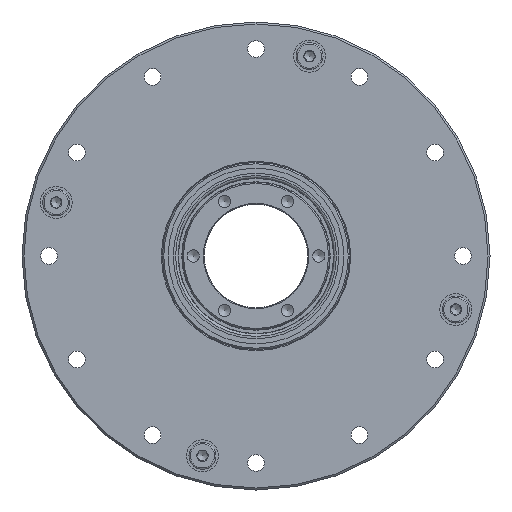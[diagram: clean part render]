
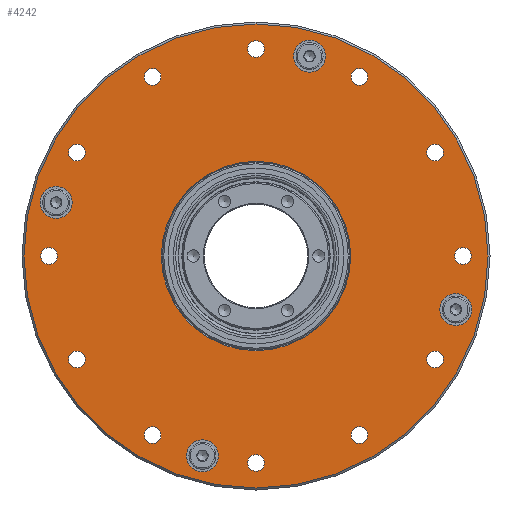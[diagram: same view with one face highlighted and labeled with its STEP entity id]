
A CAD part, left-side view. The second image highlights one B-rep face of the part: STEP entity #4242.
In plain terms, the highlighted planar face has unit normal (-1, 0, 0).
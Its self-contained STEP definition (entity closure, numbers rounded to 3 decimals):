
#4242=ADVANCED_FACE('',(#6207,#6208,#6209,#6210,#6211,#6212,#6213,#6214,
#6215,#6216,#6217,#6218,#6219,#6220,#6221,#6222,#6223,#6224),#4781,.F.);
#4781=PLANE('',#19052);
#6207=FACE_BOUND('',#8252,.T.);
#6208=FACE_BOUND('',#8253,.T.);
#6209=FACE_BOUND('',#8254,.T.);
#6210=FACE_BOUND('',#8255,.T.);
#6211=FACE_BOUND('',#8256,.T.);
#6212=FACE_BOUND('',#8257,.T.);
#6213=FACE_BOUND('',#8258,.T.);
#6214=FACE_BOUND('',#8259,.T.);
#6215=FACE_BOUND('',#8260,.T.);
#6216=FACE_BOUND('',#8261,.T.);
#6217=FACE_BOUND('',#8262,.T.);
#6218=FACE_BOUND('',#8263,.T.);
#6219=FACE_BOUND('',#8264,.T.);
#6220=FACE_BOUND('',#8265,.T.);
#6221=FACE_BOUND('',#8266,.T.);
#6222=FACE_BOUND('',#8267,.T.);
#6223=FACE_BOUND('',#8268,.T.);
#6224=FACE_BOUND('',#8269,.T.);
#8252=EDGE_LOOP('',(#11566));
#8253=EDGE_LOOP('',(#11567));
#8254=EDGE_LOOP('',(#11568));
#8255=EDGE_LOOP('',(#11569));
#8256=EDGE_LOOP('',(#11570));
#8257=EDGE_LOOP('',(#11571));
#8258=EDGE_LOOP('',(#11572));
#8259=EDGE_LOOP('',(#11573));
#8260=EDGE_LOOP('',(#11574));
#8261=EDGE_LOOP('',(#11575));
#8262=EDGE_LOOP('',(#11576));
#8263=EDGE_LOOP('',(#11577));
#8264=EDGE_LOOP('',(#11578));
#8265=EDGE_LOOP('',(#11579));
#8266=EDGE_LOOP('',(#11580));
#8267=EDGE_LOOP('',(#11581));
#8268=EDGE_LOOP('',(#11582));
#8269=EDGE_LOOP('',(#11583));
#11566=ORIENTED_EDGE('',*,*,#15133,.T.);
#11567=ORIENTED_EDGE('',*,*,#15134,.T.);
#11568=ORIENTED_EDGE('',*,*,#15135,.T.);
#11569=ORIENTED_EDGE('',*,*,#15136,.T.);
#11570=ORIENTED_EDGE('',*,*,#15137,.T.);
#11571=ORIENTED_EDGE('',*,*,#15138,.T.);
#11572=ORIENTED_EDGE('',*,*,#15139,.T.);
#11573=ORIENTED_EDGE('',*,*,#15140,.T.);
#11574=ORIENTED_EDGE('',*,*,#15141,.T.);
#11575=ORIENTED_EDGE('',*,*,#15142,.T.);
#11576=ORIENTED_EDGE('',*,*,#15143,.T.);
#11577=ORIENTED_EDGE('',*,*,#15144,.T.);
#11578=ORIENTED_EDGE('',*,*,#15145,.T.);
#11579=ORIENTED_EDGE('',*,*,#15146,.T.);
#11580=ORIENTED_EDGE('',*,*,#15147,.T.);
#11581=ORIENTED_EDGE('',*,*,#15148,.T.);
#11582=ORIENTED_EDGE('',*,*,#15149,.T.);
#11583=ORIENTED_EDGE('',*,*,#15150,.T.);
#13435=VERTEX_POINT('',#34991);
#13436=VERTEX_POINT('',#34993);
#13437=VERTEX_POINT('',#34995);
#13438=VERTEX_POINT('',#34997);
#13439=VERTEX_POINT('',#34999);
#13440=VERTEX_POINT('',#35001);
#13441=VERTEX_POINT('',#35003);
#13442=VERTEX_POINT('',#35005);
#13443=VERTEX_POINT('',#35007);
#13444=VERTEX_POINT('',#35009);
#13445=VERTEX_POINT('',#35011);
#13446=VERTEX_POINT('',#35013);
#13447=VERTEX_POINT('',#35015);
#13448=VERTEX_POINT('',#35017);
#13449=VERTEX_POINT('',#35019);
#13450=VERTEX_POINT('',#35021);
#13451=VERTEX_POINT('',#35023);
#13452=VERTEX_POINT('',#35025);
#15133=EDGE_CURVE('',#13435,#13435,#16910,.T.);
#15134=EDGE_CURVE('',#13436,#13436,#16911,.T.);
#15135=EDGE_CURVE('',#13437,#13437,#16912,.T.);
#15136=EDGE_CURVE('',#13438,#13438,#16913,.T.);
#15137=EDGE_CURVE('',#13439,#13439,#16914,.T.);
#15138=EDGE_CURVE('',#13440,#13440,#16915,.T.);
#15139=EDGE_CURVE('',#13441,#13441,#16916,.T.);
#15140=EDGE_CURVE('',#13442,#13442,#16917,.T.);
#15141=EDGE_CURVE('',#13443,#13443,#16918,.T.);
#15142=EDGE_CURVE('',#13444,#13444,#16919,.T.);
#15143=EDGE_CURVE('',#13445,#13445,#16920,.T.);
#15144=EDGE_CURVE('',#13446,#13446,#16921,.T.);
#15145=EDGE_CURVE('',#13447,#13447,#16922,.T.);
#15146=EDGE_CURVE('',#13448,#13448,#16923,.T.);
#15147=EDGE_CURVE('',#13449,#13449,#16924,.T.);
#15148=EDGE_CURVE('',#13450,#13450,#16925,.T.);
#15149=EDGE_CURVE('',#13451,#13451,#16926,.T.);
#15150=EDGE_CURVE('',#13452,#13452,#16927,.T.);
#16910=CIRCLE('',#19034,19.218);
#16911=CIRCLE('',#19035,3.25);
#16912=CIRCLE('',#19036,3.25);
#16913=CIRCLE('',#19037,3.25);
#16914=CIRCLE('',#19038,3.25);
#16915=CIRCLE('',#19039,1.7);
#16916=CIRCLE('',#19040,1.7);
#16917=CIRCLE('',#19041,1.7);
#16918=CIRCLE('',#19042,1.7);
#16919=CIRCLE('',#19043,1.7);
#16920=CIRCLE('',#19044,1.7);
#16921=CIRCLE('',#19045,1.7);
#16922=CIRCLE('',#19046,1.7);
#16923=CIRCLE('',#19047,1.7);
#16924=CIRCLE('',#19048,1.7);
#16925=CIRCLE('',#19049,1.7);
#16926=CIRCLE('',#19050,1.7);
#16927=CIRCLE('',#19051,47.1);
#19034=AXIS2_PLACEMENT_3D('',#34990,#23513,#23514);
#19035=AXIS2_PLACEMENT_3D('',#34992,#23515,#23516);
#19036=AXIS2_PLACEMENT_3D('',#34994,#23517,#23518);
#19037=AXIS2_PLACEMENT_3D('',#34996,#23519,#23520);
#19038=AXIS2_PLACEMENT_3D('',#34998,#23521,#23522);
#19039=AXIS2_PLACEMENT_3D('',#35000,#23523,#23524);
#19040=AXIS2_PLACEMENT_3D('',#35002,#23525,#23526);
#19041=AXIS2_PLACEMENT_3D('',#35004,#23527,#23528);
#19042=AXIS2_PLACEMENT_3D('',#35006,#23529,#23530);
#19043=AXIS2_PLACEMENT_3D('',#35008,#23531,#23532);
#19044=AXIS2_PLACEMENT_3D('',#35010,#23533,#23534);
#19045=AXIS2_PLACEMENT_3D('',#35012,#23535,#23536);
#19046=AXIS2_PLACEMENT_3D('',#35014,#23537,#23538);
#19047=AXIS2_PLACEMENT_3D('',#35016,#23539,#23540);
#19048=AXIS2_PLACEMENT_3D('',#35018,#23541,#23542);
#19049=AXIS2_PLACEMENT_3D('',#35020,#23543,#23544);
#19050=AXIS2_PLACEMENT_3D('',#35022,#23545,#23546);
#19051=AXIS2_PLACEMENT_3D('',#35024,#23547,#23548);
#19052=AXIS2_PLACEMENT_3D('',#35026,#23549,#23550);
#23513=DIRECTION('',(1.,0.,0.));
#23514=DIRECTION('',(0.,0.,-1.));
#23515=DIRECTION('',(1.,0.,0.));
#23516=DIRECTION('',(0.,1.,0.));
#23517=DIRECTION('',(1.,0.,0.));
#23518=DIRECTION('',(0.,0.,1.));
#23519=DIRECTION('',(1.,0.,0.));
#23520=DIRECTION('',(0.,-1.,0.));
#23521=DIRECTION('',(1.,0.,0.));
#23522=DIRECTION('',(0.,0.,-1.));
#23523=DIRECTION('',(1.,0.,0.));
#23524=DIRECTION('',(0.,0.866,-0.5));
#23525=DIRECTION('',(1.,0.,0.));
#23526=DIRECTION('',(0.,1.,0.));
#23527=DIRECTION('',(1.,0.,0.));
#23528=DIRECTION('',(0.,0.866,0.5));
#23529=DIRECTION('',(1.,0.,0.));
#23530=DIRECTION('',(0.,0.5,0.866));
#23531=DIRECTION('',(1.,0.,0.));
#23532=DIRECTION('',(0.,0.,1.));
#23533=DIRECTION('',(1.,0.,0.));
#23534=DIRECTION('',(0.,-0.5,0.866));
#23535=DIRECTION('',(1.,0.,0.));
#23536=DIRECTION('',(0.,-0.866,0.5));
#23537=DIRECTION('',(1.,0.,0.));
#23538=DIRECTION('',(0.,-1.,0.));
#23539=DIRECTION('',(1.,0.,0.));
#23540=DIRECTION('',(0.,-0.866,-0.5));
#23541=DIRECTION('',(1.,0.,0.));
#23542=DIRECTION('',(0.,-0.5,-0.866));
#23543=DIRECTION('',(1.,0.,0.));
#23544=DIRECTION('',(0.,0.5,-0.866));
#23545=DIRECTION('',(1.,0.,0.));
#23546=DIRECTION('',(0.,0.,-1.));
#23547=DIRECTION('',(-1.,0.,0.));
#23548=DIRECTION('',(0.,0.,-1.));
#23549=DIRECTION('',(1.,0.,0.));
#23550=DIRECTION('',(0.,0.,-1.));
#34990=CARTESIAN_POINT('',(0.,0.,0.));
#34991=CARTESIAN_POINT('',(0.,0.,-19.218));
#34992=CARTESIAN_POINT('',(0.,40.569,10.87));
#34993=CARTESIAN_POINT('',(0.,43.819,10.87));
#34994=CARTESIAN_POINT('',(0.,-10.87,40.569));
#34995=CARTESIAN_POINT('',(0.,-10.87,43.819));
#34996=CARTESIAN_POINT('',(0.,-40.569,-10.87));
#34997=CARTESIAN_POINT('',(0.,-43.819,-10.87));
#34998=CARTESIAN_POINT('',(0.,10.87,-40.569));
#34999=CARTESIAN_POINT('',(0.,10.87,-43.819));
#35000=CARTESIAN_POINT('',(0.,21.,36.373));
#35001=CARTESIAN_POINT('',(0.,22.472,35.523));
#35002=CARTESIAN_POINT('',(0.,0.,42.));
#35003=CARTESIAN_POINT('',(0.,1.7,42.));
#35004=CARTESIAN_POINT('',(0.,-21.,36.373));
#35005=CARTESIAN_POINT('',(0.,-19.528,37.223));
#35006=CARTESIAN_POINT('',(0.,-36.373,21.));
#35007=CARTESIAN_POINT('',(0.,-35.523,22.472));
#35008=CARTESIAN_POINT('',(0.,-42.,0.));
#35009=CARTESIAN_POINT('',(0.,-42.,1.7));
#35010=CARTESIAN_POINT('',(0.,-36.373,-21.));
#35011=CARTESIAN_POINT('',(0.,-37.223,-19.528));
#35012=CARTESIAN_POINT('',(0.,-21.,-36.373));
#35013=CARTESIAN_POINT('',(0.,-22.472,-35.523));
#35014=CARTESIAN_POINT('',(0.,0.,-42.));
#35015=CARTESIAN_POINT('',(0.,-1.7,-42.));
#35016=CARTESIAN_POINT('',(0.,21.,-36.373));
#35017=CARTESIAN_POINT('',(0.,19.528,-37.223));
#35018=CARTESIAN_POINT('',(0.,36.373,-21.));
#35019=CARTESIAN_POINT('',(0.,35.523,-22.472));
#35020=CARTESIAN_POINT('',(0.,36.373,21.));
#35021=CARTESIAN_POINT('',(0.,37.223,19.528));
#35022=CARTESIAN_POINT('',(0.,42.,0.));
#35023=CARTESIAN_POINT('',(0.,42.,-1.7));
#35024=CARTESIAN_POINT('',(0.,0.,0.));
#35025=CARTESIAN_POINT('',(0.,0.,-47.1));
#35026=CARTESIAN_POINT('',(0.,47.5,0.));
